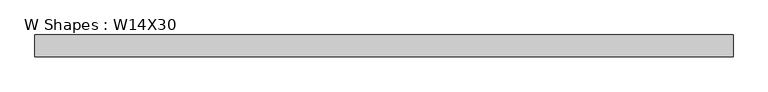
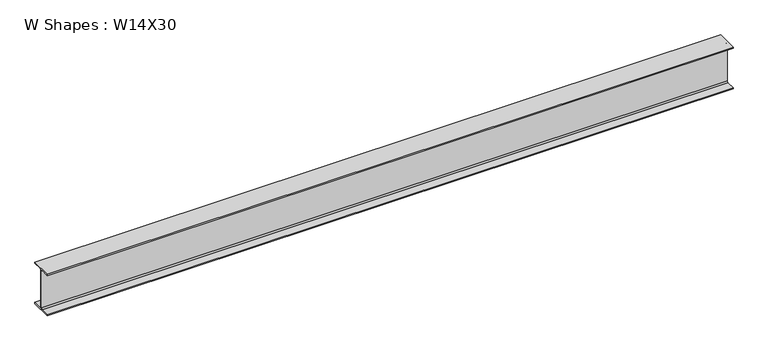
"""IFC4 building model written with IfcOpenShell, lengths in millimetres: beam geometry, W Shapes : W14X30."""

from ifc_helpers import new_model, si_unit, point, frame, frame_2d, origin, place, context, project, spatial, polyline, circle_curve, trimmed, segment, composite_curve, outline, extrude, source, transform, mapped, element, save


def w_shapes_w14x30_0a88d063(model_context):
    return source(origin(), model_context, "Body", "SweptSolid", [
        extrude(outline(composite_curve([segment(polyline([(85.471, -165.354), (85.471, -175.26), (-85.471, -175.26), (-85.471, -165.354), (-13.589, -165.354)]), True, "CONTINUOUS"), segment(trimmed(circle_curve(frame_2d((-13.589, -155.194)), 10.16), [point((-13.589, -165.354))], [point((-3.429, -155.194))], True, "CARTESIAN"), True, "CONTINUOUS"), segment(polyline([(-3.429, -155.194), (-3.429, 155.194)]), True, "CONTINUOUS"), segment(trimmed(circle_curve(frame_2d((-13.589, 155.194)), 10.16), [point((-3.429, 155.194))], [point((-13.589, 165.354))], True, "CARTESIAN"), True, "CONTINUOUS"), segment(polyline([(-13.589, 165.354), (-85.471, 165.354), (-85.471, 175.26), (85.471, 175.26), (85.471, 165.354), (13.589, 165.354)]), True, "CONTINUOUS"), segment(trimmed(circle_curve(frame_2d((13.589, 155.194)), 10.16), [point((13.589, 165.354))], [point((3.429, 155.194))], True, "CARTESIAN"), True, "CONTINUOUS"), segment(polyline([(3.429, 155.194), (3.429, -155.194)]), True, "CONTINUOUS"), segment(trimmed(circle_curve(frame_2d((13.589, -155.194)), 10.16), [point((3.429, -155.194))], [point((13.589, -165.354))], True, "CARTESIAN"), True, "CONTINUOUS"), segment(polyline([(13.589, -165.354), (85.471, -165.354)]), True, "CONTINUOUS")], self_intersect=False)), frame((-2730.5, 0.0, 0.0), z_axis=(1.0, 0.0, 0.0), x_axis=(0.0, 1.0, 0.0)), (0.0, 0.0, 1.0), 5461.0),
    ])


if __name__ == "__main__":
    model = new_model("IFC4")
    model_context = context("Model", 3, world=origin())
    ifc_project = project(units=[si_unit("LENGTHUNIT", "METRE", prefix="MILLI")], contexts=[model_context])
    site = spatial("IfcSite", under=ifc_project)
    building = spatial("IfcBuilding", under=site)
    placement = place(None, origin())
    w_shapes_w14x30_shape = w_shapes_w14x30_0a88d063(model_context)
    element("IfcBeam", 1, ObjectType="W Shapes : W14X30", at=placement, inside=building, context=model_context, shape_type="MappedRepresentation", body=[
        mapped(w_shapes_w14x30_shape, transform((0.0, 0.0, 0.0), x_axis=(1.0, 0.0, 0.0), y_axis=(0.0, 1.0, 0.0), z_axis=(0.0, 0.0, 1.0))),
    ])
    save(model, "model.ifc")
